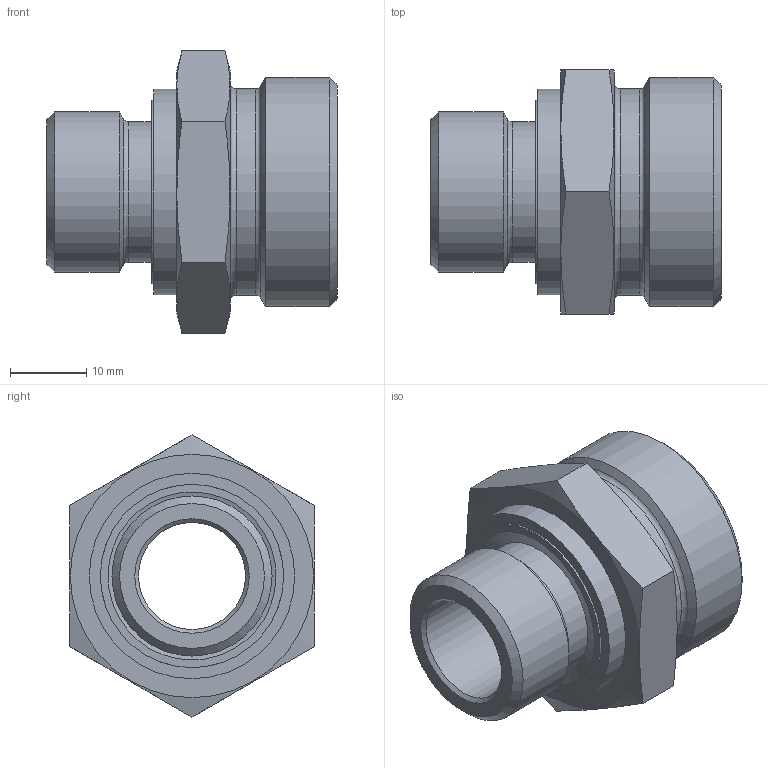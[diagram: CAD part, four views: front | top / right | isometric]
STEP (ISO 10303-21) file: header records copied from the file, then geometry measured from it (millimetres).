
FILE_DESCRIPTION( ( 'Unknown' ), '1' );
FILE_NAME( 'C:/Users/p.nanko/Desktop/3D SR/XGE22LED04.stp', 'Unknown', ( 'Peter Nanko' ), ( 'Armaturen Arndt' ), 'PSStep 14.0', 'Solid Edge ST4', ' ' );
FILE_SCHEMA( ( 'AUTOMOTIVE_DESIGN { 1 0 10303 214 1 1 1 1 }' ) );
Length unit declared in the file: millimetre
Products named in the file (3): Assem1; ED04; XGE22LED043
Assembly tree (2 placements, depth 2):
  Assem1
    ED04
    XGE22LED043
Bounding box: 38 x 32 x 36.95 mm (x, y, z)
Volume: 13902.4 mm3; surface area: 7297.7 mm2
Topology: 2 solids, 2 shells, 38 faces, 75 edges, 46 vertices
Faces by surface type: plane 15, cylinder 10, cone 9, torus 4
Full cylindrical faces by diameter (mm): 14 x1, 18.4 x2, 20.955 x1, 22 x1, 24 x2, 26.9 x1, 27 x1, 30 x1
Entity records: 1274 total; most frequent: CARTESIAN_POINT 233, DIRECTION 150, ORIENTED_EDGE 98, AXIS2_PLACEMENT_3D 72, EDGE_LOOP 70, FACE_OUTER_BOUND 52, EDGE_CURVE 49, VERTEX_POINT 43
